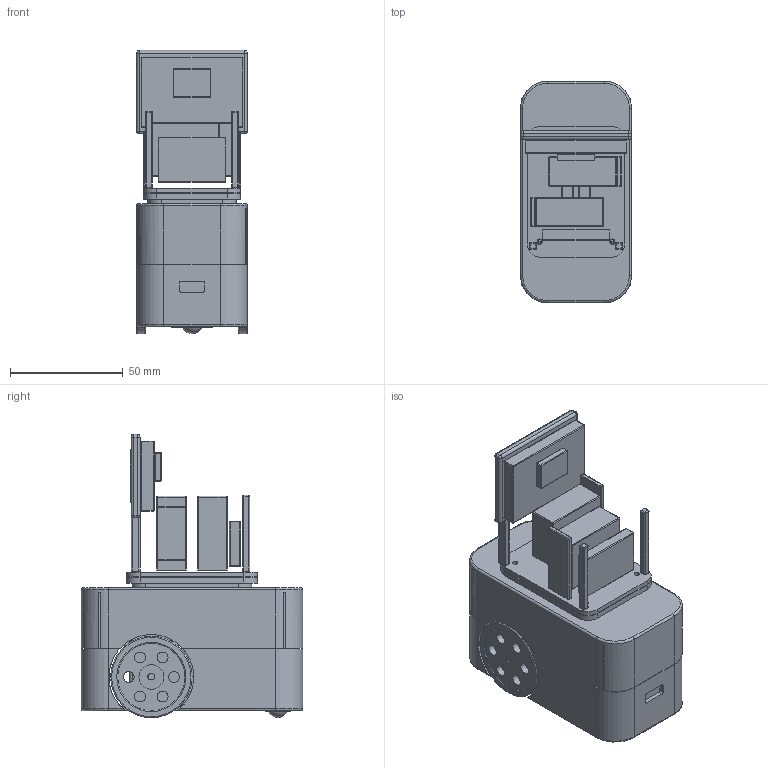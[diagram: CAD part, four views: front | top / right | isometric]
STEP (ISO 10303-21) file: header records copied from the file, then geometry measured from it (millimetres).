
FILE_DESCRIPTION(('Open CASCADE Model'),'2;1');
FILE_NAME('MB01_ModularRobot_v01','2026-09-29T13:43:32',('Author'),( 'Open CASCADE'),'Open CASCADE STEP processor 8.0','build123d', 'Unknown');
FILE_SCHEMA(('AUTOMOTIVE_DESIGN { 1 0 10303 214 1 1 1 1 }'));
Length unit declared in the file: millimetre
Products named in the file (34): MB01_ModularRobot_v01; 01_bottom_shell; 02_top_shell; 03_battery_tray; 04_electronics_deck; 10_motor_L; 12_wheel_hub_L; 13_tire_L; 10_motor_R; 12_wheel_hub_R; 13_tire_R; 11_motor_bridge_clamp_0; 11_motor_bridge_clamp_1; 14_caster_housing; 15_caster_ball; 20_battery_1200mAh; 21_ESP32_S3_Plus; 22_DRV8833; 23_IMU_LSM6DS3TRC; 24_audio_amplifier; 25_USB_C_charger; 26_5V_boost; 27_optional_ToF; 28_switch_reserve; 30_body_adapter; 31_upper_hardware_carrier; 32_arm_servo_L; 33_servo_ears_L; 32_arm_servo_R; 33_servo_ears_R; 34_display_ST7789; 35_microphone; 36_speaker; 37_display_active_area
Assembly tree (33 placements, depth 2):
  MB01_ModularRobot_v01
    01_bottom_shell
    02_top_shell
    03_battery_tray
    04_electronics_deck
    10_motor_L
    12_wheel_hub_L
    13_tire_L
    10_motor_R
    12_wheel_hub_R
    13_tire_R
    11_motor_bridge_clamp_0
    11_motor_bridge_clamp_1
    14_caster_housing
    15_caster_ball
    20_battery_1200mAh
    21_ESP32_S3_Plus
    22_DRV8833
    23_IMU_LSM6DS3TRC
    24_audio_amplifier
    25_USB_C_charger
    26_5V_boost
    27_optional_ToF
    28_switch_reserve
    30_body_adapter
    31_upper_hardware_carrier
    32_arm_servo_L
    33_servo_ears_L
    32_arm_servo_R
    33_servo_ears_R
    34_display_ST7789
    35_microphone
    36_speaker
    37_display_active_area
Bounding box: 49 x 98 x 125.4 mm (x, y, z)
Volume: 182274 mm3; surface area: 124532.3 mm2
Topology: 33 solids, 33 shells, 1333 faces, 3218 edges, 1736 vertices
Faces by surface type: cylinder 568, plane 511, sphere 238, torus 16
Full cylindrical faces by diameter (mm): 1.7 x8, 2.3 x16, 3 x1, 3.5 x1, 4 x1, 4.4 x4, 4.5 x1, 4.8 x12, 6 x4, 6.6 x4, 11 x4, 29.7 x2, 30 x2, 36 x2
Entity records: 75901 total; most frequent: CARTESIAN_POINT 15459, DIRECTION 10878, ORIENTED_EDGE 5956, PCURVE 5956, DEFINITIONAL_REPRESENTATION 5956, LINE 5464, VECTOR 5464, EDGE_CURVE 2978
